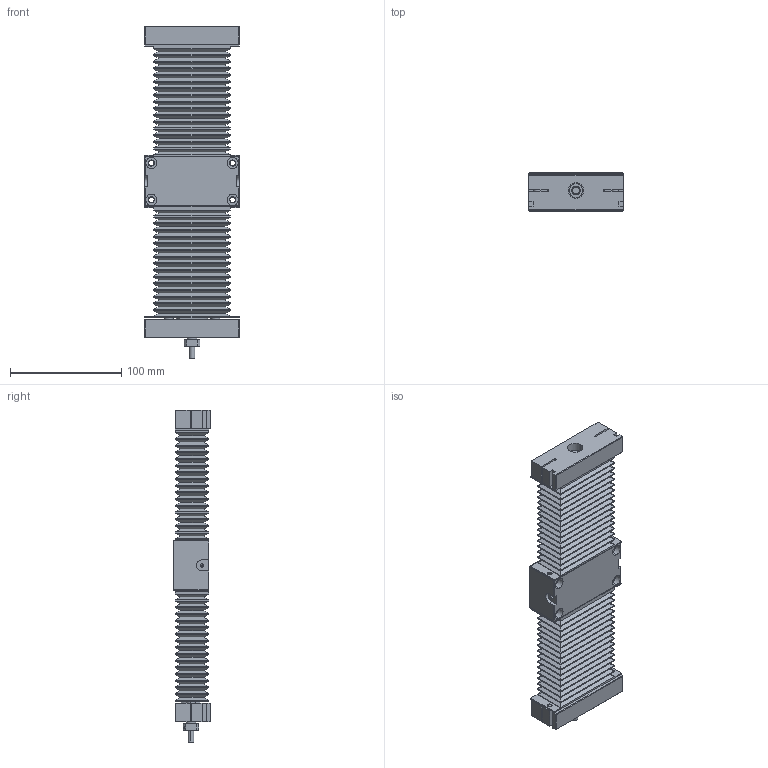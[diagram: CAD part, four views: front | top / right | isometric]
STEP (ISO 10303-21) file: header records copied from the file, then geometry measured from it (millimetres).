
FILE_DESCRIPTION (( 'STEP AP214' ), '1' );
FILE_NAME ('TKC0802B-100H0C-Ä£×é.step', '2025-08-25T08:35:53', ( '' ), ( '' ), 'SwSTEP 2.0', 'SolidWorks 2024', '' );
FILE_SCHEMA (( 'AUTOMOTIVE_DESIGN' ));
Length unit declared in the file: millimetre
Products named in the file (4): TKC08-100-03; TKC08-100-01; TKC08-02; TKC0802B-100H0C-模组
Assembly tree (4 placements, depth 2):
  TKC0802B-100H0C-模组
    TKC08-02
    TKC08-100-01
    TKC08-100-03  x2
Bounding box: 85 x 34 x 298 mm (x, y, z)
Volume: 475062.5 mm3; surface area: 180003.2 mm2
Topology: 10 solids, 16 shells, 1082 faces, 2482 edges, 1474 vertices
Faces by surface type: plane 712, cylinder 289, cone 42, torus 28, bspline 11
Entity records: 33777 total; most frequent: CARTESIAN_POINT 13589, DIRECTION 4052, ORIENTED_EDGE 3996, EDGE_CURVE 1998, AXIS2_PLACEMENT_3D 1376, VECTOR 1300, LINE 1300, VERTEX_POINT 1234
